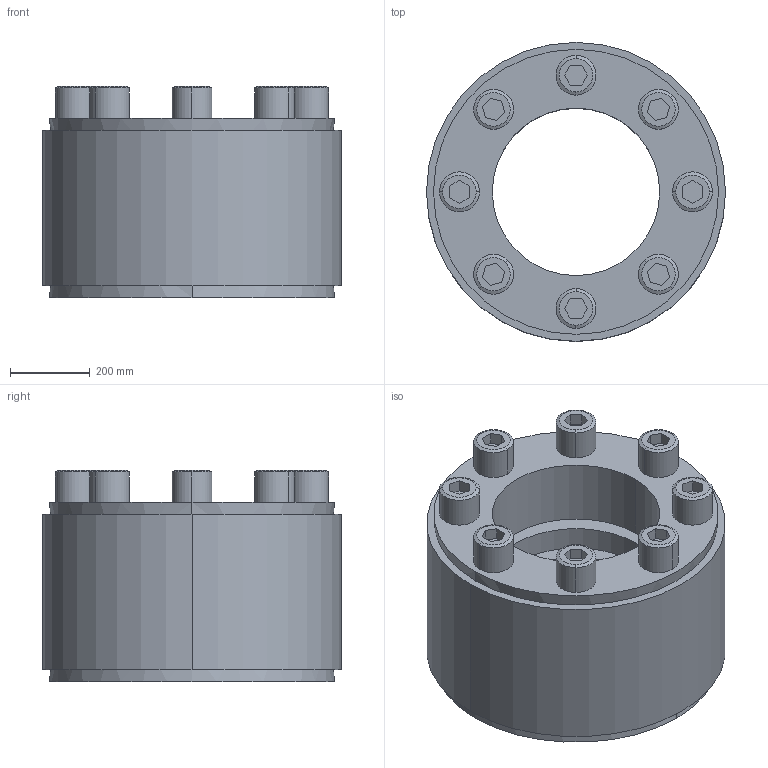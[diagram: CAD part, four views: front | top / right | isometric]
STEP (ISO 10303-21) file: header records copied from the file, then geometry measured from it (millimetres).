
FILE_DESCRIPTION (( 'STEP AP203' ), '1' );
FILE_NAME ('SF-042_.STEP', '2020-04-01T07:39:39', ( '' ), ( '' ), 'SwSTEP 2.0', 'SolidWorks 2018', '' );
FILE_SCHEMA (( 'CONFIG_CONTROL_DESIGN' ));
Length unit declared in the file: inch
Products named in the file (5): SF-042_; _U21-1; SF-042; _U22-1; 87947-1
Assembly tree (11 placements, depth 4):
  SF-042_
    _U22-1
      _U21-1  x8
        87947-1
    SF-042
Bounding box: 750 x 750 x 530 mm (x, y, z)
Volume: 115858594.2 mm3; surface area: 5226945.8 mm2
Topology: 11 solids, 11 shells, 176 faces, 416 edges, 272 vertices
Faces by surface type: plane 80, cylinder 72, cone 24
Entity records: 3541 total; most frequent: DIRECTION 556, CARTESIAN_POINT 467, ORIENTED_EDGE 440, AXIS2_PLACEMENT_3D 235, EDGE_CURVE 220, VERTEX_POINT 146, EDGE_LOOP 142, CIRCLE 134
